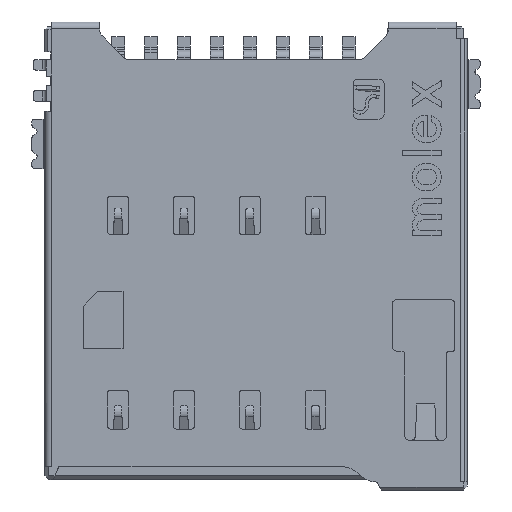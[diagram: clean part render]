
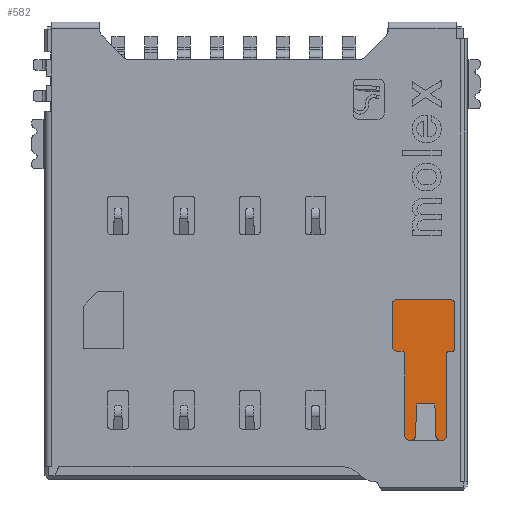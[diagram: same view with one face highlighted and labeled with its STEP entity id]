
A CAD part, top view. The second image highlights one B-rep face of the part: STEP entity #582.
In plain terms, the highlighted planar face has unit normal (0, 0, 1).
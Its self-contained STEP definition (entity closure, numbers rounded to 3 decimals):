
#582=ADVANCED_FACE('',(#2050),#2051,.F.);
#2050=FACE_OUTER_BOUND('',#3987,.T.);
#2051=PLANE('',#3988);
#3987=EDGE_LOOP('',(#9115,#9116,#9117,#9118,#9119,#9120,#9121,#9122,#9123,#9124,#9125,#9126,#9127,#9128,#9129,#9130,#9131,#9132,#9133,#9134,#9135,#9136));
#3988=AXIS2_PLACEMENT_3D('',#9137,#9138,#9139);
#9115=ORIENTED_EDGE('',*,*,#14133,.T.);
#9116=ORIENTED_EDGE('',*,*,#14134,.T.);
#9117=ORIENTED_EDGE('',*,*,#14135,.T.);
#9118=ORIENTED_EDGE('',*,*,#14136,.T.);
#9119=ORIENTED_EDGE('',*,*,#14137,.T.);
#9120=ORIENTED_EDGE('',*,*,#14138,.F.);
#9121=ORIENTED_EDGE('',*,*,#14139,.T.);
#9122=ORIENTED_EDGE('',*,*,#14140,.T.);
#9123=ORIENTED_EDGE('',*,*,#14141,.T.);
#9124=ORIENTED_EDGE('',*,*,#14142,.F.);
#9125=ORIENTED_EDGE('',*,*,#14143,.T.);
#9126=ORIENTED_EDGE('',*,*,#14144,.T.);
#9127=ORIENTED_EDGE('',*,*,#14145,.T.);
#9128=ORIENTED_EDGE('',*,*,#14146,.T.);
#9129=ORIENTED_EDGE('',*,*,#14147,.F.);
#9130=ORIENTED_EDGE('',*,*,#14148,.T.);
#9131=ORIENTED_EDGE('',*,*,#14149,.T.);
#9132=ORIENTED_EDGE('',*,*,#14150,.T.);
#9133=ORIENTED_EDGE('',*,*,#14151,.T.);
#9134=ORIENTED_EDGE('',*,*,#14125,.F.);
#9135=ORIENTED_EDGE('',*,*,#14128,.T.);
#9136=ORIENTED_EDGE('',*,*,#14130,.T.);
#9137=CARTESIAN_POINT('',(9.177,-1.255,0.8));
#9138=DIRECTION('',(0.0,0.0,-1.0));
#9139=DIRECTION('',(0.0,-1.0,0.0));
#14125=EDGE_CURVE('',#17804,#17805,#17806,.T.);
#14128=EDGE_CURVE('',#17804,#17809,#17810,.T.);
#14130=EDGE_CURVE('',#17809,#17812,#17813,.T.);
#14133=EDGE_CURVE('',#17812,#17815,#17817,.T.);
#14134=EDGE_CURVE('',#17815,#17818,#17819,.T.);
#14135=EDGE_CURVE('',#17818,#17820,#17821,.T.);
#14136=EDGE_CURVE('',#17820,#17822,#17823,.T.);
#14137=EDGE_CURVE('',#17822,#17824,#17825,.T.);
#14138=EDGE_CURVE('',#17826,#17824,#17827,.T.);
#14139=EDGE_CURVE('',#17826,#17828,#17829,.T.);
#14140=EDGE_CURVE('',#17828,#17830,#17831,.T.);
#14141=EDGE_CURVE('',#17830,#17832,#17833,.T.);
#14142=EDGE_CURVE('',#17834,#17832,#17835,.T.);
#14143=EDGE_CURVE('',#17834,#17836,#17837,.T.);
#14144=EDGE_CURVE('',#17836,#17838,#17839,.T.);
#14145=EDGE_CURVE('',#17838,#17840,#17841,.T.);
#14146=EDGE_CURVE('',#17840,#17842,#17843,.T.);
#14147=EDGE_CURVE('',#17844,#17842,#17845,.T.);
#14148=EDGE_CURVE('',#17844,#17846,#17847,.T.);
#14149=EDGE_CURVE('',#17846,#17848,#17849,.T.);
#14150=EDGE_CURVE('',#17848,#17850,#17851,.T.);
#14151=EDGE_CURVE('',#17850,#17805,#17852,.T.);
#17804=VERTEX_POINT('',#23272);
#17805=VERTEX_POINT('',#23273);
#17806=LINE('',#23274,#23275);
#17809=VERTEX_POINT('',#23280);
#17810=CIRCLE('',#23281,0.1);
#17812=VERTEX_POINT('',#23284);
#17813=LINE('',#23285,#23286);
#17815=VERTEX_POINT('',#23289);
#17817=CIRCLE('',#23292,0.1);
#17818=VERTEX_POINT('',#23293);
#17819=LINE('',#23294,#23295);
#17820=VERTEX_POINT('',#23296);
#17821=CIRCLE('',#23297,0.2);
#17822=VERTEX_POINT('',#23298);
#17823=LINE('',#23299,#23300);
#17824=VERTEX_POINT('',#23301);
#17825=CIRCLE('',#23302,0.2);
#17826=VERTEX_POINT('',#23303);
#17827=LINE('',#23304,#23305);
#17828=VERTEX_POINT('',#23306);
#17829=CIRCLE('',#23307,0.2);
#17830=VERTEX_POINT('',#23308);
#17831=LINE('',#23309,#23310);
#17832=VERTEX_POINT('',#23311);
#17833=CIRCLE('',#23312,0.1);
#17834=VERTEX_POINT('',#23313);
#17835=LINE('',#23314,#23315);
#17836=VERTEX_POINT('',#23316);
#17837=CIRCLE('',#23317,0.2);
#17838=VERTEX_POINT('',#23318);
#17839=LINE('',#23319,#23320);
#17840=VERTEX_POINT('',#23321);
#17841=CIRCLE('',#23322,0.2);
#17842=VERTEX_POINT('',#23323);
#17843=LINE('',#23324,#23325);
#17844=VERTEX_POINT('',#23326);
#17845=LINE('',#23327,#23328);
#17846=VERTEX_POINT('',#23329);
#17847=LINE('',#23330,#23331);
#17848=VERTEX_POINT('',#23332);
#17849=CIRCLE('',#23333,0.2);
#17850=VERTEX_POINT('',#23334);
#17851=LINE('',#23335,#23336);
#17852=CIRCLE('',#23337,0.2);
#23272=CARTESIAN_POINT('',(9.016,3.258,0.8));
#23273=CARTESIAN_POINT('',(9.016,0.108,0.8));
#23274=CARTESIAN_POINT('',(9.016,3.258,0.8));
#23275=VECTOR('',#27505,3.15);
#23280=CARTESIAN_POINT('',(9.116,3.358,0.8));
#23281=AXIS2_PLACEMENT_3D('',#27508,#27509,#27510);
#23284=CARTESIAN_POINT('',(9.236,3.358,0.8));
#23285=CARTESIAN_POINT('',(9.116,3.358,0.8));
#23286=VECTOR('',#27512,0.12);
#23289=CARTESIAN_POINT('',(9.336,3.458,0.8));
#23292=AXIS2_PLACEMENT_3D('',#27515,#27516,#27517);
#23293=CARTESIAN_POINT('',(9.336,5.158,0.8));
#23294=CARTESIAN_POINT('',(9.336,3.458,0.8));
#23295=VECTOR('',#27518,1.7);
#23296=CARTESIAN_POINT('',(9.136,5.358,0.8));
#23297=AXIS2_PLACEMENT_3D('',#27519,#27520,#27521);
#23298=CARTESIAN_POINT('',(7.116,5.358,0.8));
#23299=CARTESIAN_POINT('',(9.136,5.358,0.8));
#23300=VECTOR('',#27522,2.02);
#23301=CARTESIAN_POINT('',(6.916,5.158,0.8));
#23302=AXIS2_PLACEMENT_3D('',#27523,#27524,#27525);
#23303=CARTESIAN_POINT('',(6.916,3.558,0.8));
#23304=CARTESIAN_POINT('',(6.916,3.558,0.8));
#23305=VECTOR('',#27526,1.6);
#23306=CARTESIAN_POINT('',(7.116,3.358,0.8));
#23307=AXIS2_PLACEMENT_3D('',#27527,#27528,#27529);
#23308=CARTESIAN_POINT('',(7.3,3.358,0.8));
#23309=CARTESIAN_POINT('',(7.116,3.358,0.8));
#23310=VECTOR('',#27530,0.184);
#23311=CARTESIAN_POINT('',(7.4,3.258,0.8));
#23312=AXIS2_PLACEMENT_3D('',#27531,#27532,#27533);
#23313=CARTESIAN_POINT('',(7.4,0.108,0.8));
#23314=CARTESIAN_POINT('',(7.4,0.108,0.8));
#23315=VECTOR('',#27534,3.15);
#23316=CARTESIAN_POINT('',(7.6,-0.092,0.8));
#23317=AXIS2_PLACEMENT_3D('',#27535,#27536,#27537);
#23318=CARTESIAN_POINT('',(7.616,-0.092,0.8));
#23319=CARTESIAN_POINT('',(7.6,-0.092,0.8));
#23320=VECTOR('',#27538,0.016);
#23321=CARTESIAN_POINT('',(7.816,0.102,0.8));
#23322=AXIS2_PLACEMENT_3D('',#27539,#27540,#27541);
#23323=CARTESIAN_POINT('',(7.854,1.323,0.8));
#23324=CARTESIAN_POINT('',(7.816,0.102,0.8));
#23325=VECTOR('',#27542,1.222);
#23326=CARTESIAN_POINT('',(8.561,1.323,0.8));
#23327=CARTESIAN_POINT('',(8.561,1.323,0.8));
#23328=VECTOR('',#27543,0.707);
#23329=CARTESIAN_POINT('',(8.6,0.102,0.8));
#23330=CARTESIAN_POINT('',(8.561,1.323,0.8));
#23331=VECTOR('',#27544,1.222);
#23332=CARTESIAN_POINT('',(8.8,-0.092,0.8));
#23333=AXIS2_PLACEMENT_3D('',#27545,#27546,#27547);
#23334=CARTESIAN_POINT('',(8.816,-0.092,0.8));
#23335=CARTESIAN_POINT('',(8.8,-0.092,0.8));
#23336=VECTOR('',#27548,0.016);
#23337=AXIS2_PLACEMENT_3D('',#27549,#27550,#27551);
#27505=DIRECTION('',(0.0,-1.0,0.0));
#27508=CARTESIAN_POINT('',(9.116,3.258,0.8));
#27509=DIRECTION('',(-0.0,0.0,-1.0));
#27510=DIRECTION('',(-1.0,0.,0.0));
#27512=DIRECTION('',(1.0,0.0,0.0));
#27515=CARTESIAN_POINT('',(9.236,3.458,0.8));
#27516=DIRECTION('',(0.0,0.0,1.0));
#27517=DIRECTION('',(0.,-1.0,0.0));
#27518=DIRECTION('',(0.0,1.0,0.0));
#27519=CARTESIAN_POINT('',(9.136,5.158,0.8));
#27520=DIRECTION('',(0.0,0.0,1.0));
#27521=DIRECTION('',(1.0,0.0,0.0));
#27522=DIRECTION('',(-1.0,0.0,0.0));
#27523=CARTESIAN_POINT('',(7.116,5.158,0.8));
#27524=DIRECTION('',(0.0,0.0,1.0));
#27525=DIRECTION('',(0.,1.0,0.0));
#27526=DIRECTION('',(0.0,1.0,0.0));
#27527=CARTESIAN_POINT('',(7.116,3.558,0.8));
#27528=DIRECTION('',(0.0,0.0,1.0));
#27529=DIRECTION('',(-1.0,0.,0.0));
#27530=DIRECTION('',(1.0,0.0,0.0));
#27531=CARTESIAN_POINT('',(7.3,3.258,0.8));
#27532=DIRECTION('',(0.0,0.0,-1.0));
#27533=DIRECTION('',(0.0,1.0,0.0));
#27534=DIRECTION('',(0.0,1.0,0.0));
#27535=CARTESIAN_POINT('',(7.6,0.108,0.8));
#27536=DIRECTION('',(0.0,0.0,1.0));
#27537=DIRECTION('',(-1.0,0.,0.0));
#27538=DIRECTION('',(1.0,0.0,0.0));
#27539=CARTESIAN_POINT('',(7.616,0.108,0.8));
#27540=DIRECTION('',(0.,0.,1.));
#27541=DIRECTION('',(0.,-1.0,0.));
#27542=DIRECTION('',(0.032,0.999,0.0));
#27543=DIRECTION('',(-1.0,0.0,0.0));
#27544=DIRECTION('',(0.032,-0.999,0.0));
#27545=CARTESIAN_POINT('',(8.8,0.108,0.8));
#27546=DIRECTION('',(0.,0.,1.));
#27547=DIRECTION('',(-0.999,-0.032,0.));
#27548=DIRECTION('',(1.0,0.0,0.0));
#27549=CARTESIAN_POINT('',(8.816,0.108,0.8));
#27550=DIRECTION('',(0.0,0.0,1.0));
#27551=DIRECTION('',(0.,-1.0,0.0));
